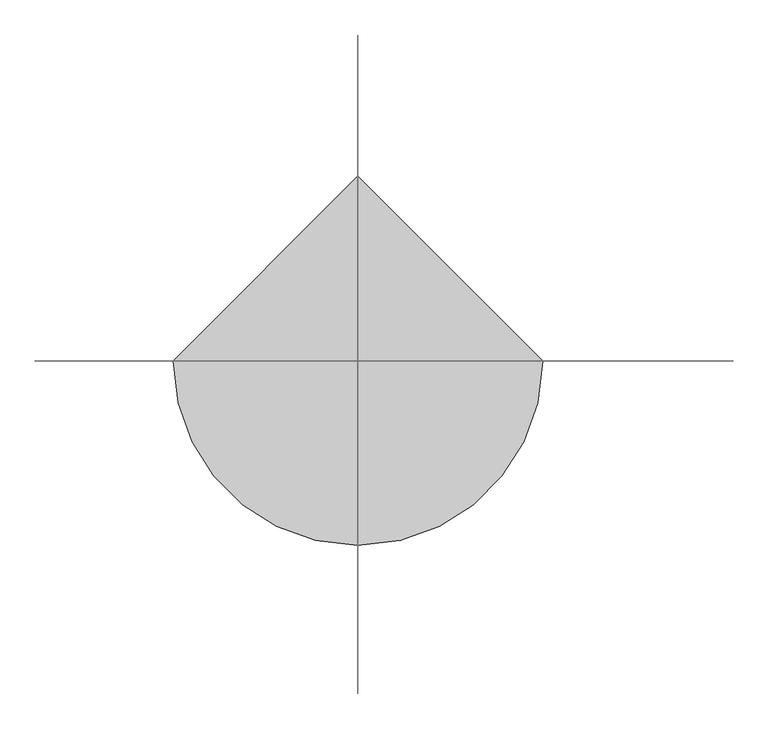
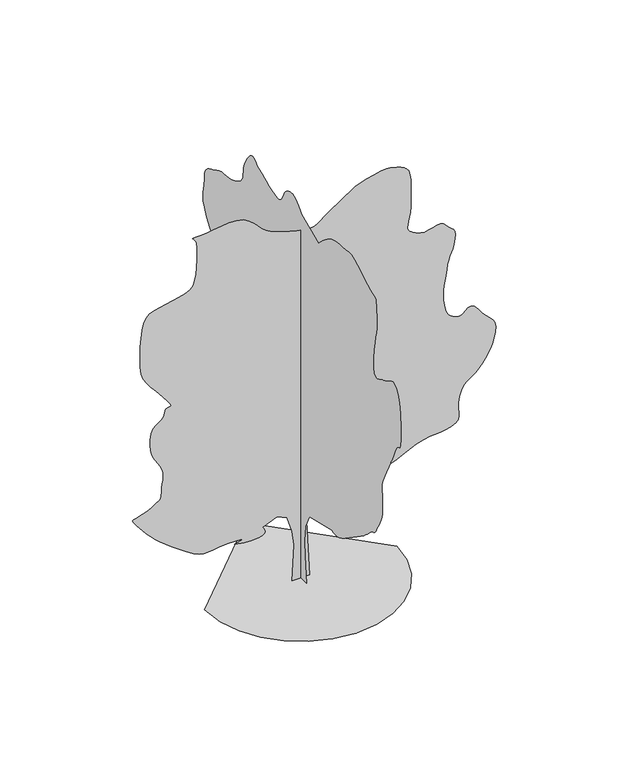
"""IFC4 building model written with IfcOpenShell, lengths in millimetres: geographic element geometry, Vegetacion PAEMFE : FRESNO AMERICANO."""

import ifcopenshell
import ifcopenshell.guid

model = None  # the IFC model being written
_history = None  # IfcOwnerHistory: only IFC2X3 demands one
_inside = {}  # id of a spatial element -> (the spatial element, [elements in it])
_under = {}  # id of a project, library or spatial element -> (it, [spatial elements below it])
_declared = {}  # id of a project -> (the project, [libraries it declares])
_typed = {}  # id of a type object -> (the type object, [elements of that type])
_made_of = {}  # id of a material, layer set ... -> (it, [elements and type objects made of it])


def new_model(schema):
    """Start an empty IFC model of exactly this schema.

    Asked for "IFC4X3", IfcOpenShell would pick the latest addendum, in which some entities
    have other attributes; the version numbers below select the first issue.
    IFC2X3 requires an IfcOwnerHistory on every rooted entity: one is made here for all.
    """
    global model, _history
    if schema == "IFC4X3":
        model = ifcopenshell.file(schema_version=(4, 3, 0, 0))
    else:
        model = ifcopenshell.file(schema=schema)
    _inside.clear()
    _under.clear()
    _declared.clear()
    _typed.clear()
    _made_of.clear()
    _history = None
    if model.schema == "IFC2X3":
        org = make("IfcOrganization", Name="unknown")
        user = make(
            "IfcPersonAndOrganization",
            ThePerson=make("IfcPerson", FamilyName="unknown"),
            TheOrganization=org,
        )
        app = make(
            "IfcApplication",
            ApplicationDeveloper=org,
            Version="unknown",
            ApplicationFullName="unknown",
            ApplicationIdentifier="unknown",
        )
        _history = make(
            "IfcOwnerHistory",
            OwningUser=user,
            OwningApplication=app,
            ChangeAction="ADDED",
            CreationDate=0,
        )
    return model


def make(cls, **values):
    """One entity of the class cls with the attributes given. An attribute that is None is left unset."""
    return model.create_entity(
        cls, **{name: value for name, value in values.items() if value is not None}
    )


def rooted(cls, **values):
    """An entity with a GlobalId (a new one), such as an element, a storey or a relation."""
    return make(cls, GlobalId=ifcopenshell.guid.new(), OwnerHistory=_history, **values)


def si_unit(unit_type, name, prefix=None):
    """IfcSIUnit, for example si_unit("LENGTHUNIT", "METRE", prefix="MILLI")."""
    return make("IfcSIUnit", UnitType=unit_type, Prefix=prefix, Name=name)


def assignment(units):
    """IfcUnitAssignment: the units of a project."""
    return None if units is None else make("IfcUnitAssignment", Units=units)


def point(xyz):
    """IfcCartesianPoint."""
    return None if xyz is None else make("IfcCartesianPoint", Coordinates=xyz)


def direction(xyz):
    """IfcDirection."""
    return None if xyz is None else make("IfcDirection", DirectionRatios=xyz)


def frame(location, z_axis=None, x_axis=None):
    """IfcAxis2Placement3D, a coordinate frame: its origin and axes. An axis left out is left unset."""
    return make(
        "IfcAxis2Placement3D",
        Location=point(location),
        Axis=direction(z_axis),
        RefDirection=direction(x_axis),
    )


def origin():
    """The frame at (0, 0, 0) with its axes left unset."""
    return frame((0.0, 0.0, 0.0))


def place(relative_to, where):
    """IfcLocalPlacement: puts the frame where relative to a parent placement (None: the world)."""
    return make(
        "IfcLocalPlacement", PlacementRelTo=relative_to, RelativePlacement=where
    )


def context(
    kind, dimensions, precision=None, world=None, true_north=None, identifier=None
):
    """IfcGeometricRepresentationContext, for example the 3D "Model" context."""
    return make(
        "IfcGeometricRepresentationContext",
        ContextIdentifier=identifier,
        ContextType=kind,
        CoordinateSpaceDimension=dimensions,
        Precision=precision,
        WorldCoordinateSystem=world,
        TrueNorth=true_north,
    )


def project(units=None, contexts=None):
    """IfcProject with its units and contexts."""
    return rooted(
        "IfcProject",
        Name="project",
        RepresentationContexts=contexts,
        UnitsInContext=assignment(units),
    )


def spatial(cls, under=None, at=None, **own):
    """A site, building, storey or space (cls), placed at a placement, below another one or the project."""
    s = rooted(cls, ObjectPlacement=at, **own)
    if under is not None:
        _under.setdefault(under.id(), (under, []))[1].append(s)
    return s


def point_list(points):
    """IfcCartesianPointList2D or 3D."""
    cls = (
        "IfcCartesianPointList2D" if len(points[0]) == 2 else "IfcCartesianPointList3D"
    )
    return make(cls, CoordList=points)


def triangles(points, corners, closed=None, point_numbers=None):
    """IfcTriangulatedFaceSet: each triangle names its three corners, points numbered from 1."""
    return make(
        "IfcTriangulatedFaceSet",
        Coordinates=point_list(points),
        Closed=closed,
        CoordIndex=corners,
        PnIndex=point_numbers,
    )


def shape(context_of_items, identifier, shape_type, items):
    """IfcShapeRepresentation: the items that make up one representation, for example the "Body"."""
    return make(
        "IfcShapeRepresentation",
        ContextOfItems=context_of_items,
        RepresentationIdentifier=identifier,
        RepresentationType=shape_type,
        Items=items,
    )


def source(mapping_origin, context_of_items, identifier, shape_type, items):
    """IfcRepresentationMap: a shape defined once, which mapped items show again and again."""
    return make(
        "IfcRepresentationMap",
        MappingOrigin=mapping_origin,
        MappedRepresentation=shape(context_of_items, identifier, shape_type, items),
    )


def transform(
    local_origin,
    x_axis=None,
    y_axis=None,
    z_axis=None,
    scale=None,
    scale2=None,
    scale3=None,
    uniform=True,
):
    """IfcCartesianTransformationOperator3D, or its non-uniform kind. x_axis, y_axis, z_axis: its Axis1, 2, 3."""
    if uniform:
        return make(
            "IfcCartesianTransformationOperator3D",
            Axis1=direction(x_axis),
            Axis2=direction(y_axis),
            LocalOrigin=point(local_origin),
            Scale=scale,
            Axis3=direction(z_axis),
        )
    return make(
        "IfcCartesianTransformationOperator3DnonUniform",
        Axis1=direction(x_axis),
        Axis2=direction(y_axis),
        LocalOrigin=point(local_origin),
        Scale=scale,
        Axis3=direction(z_axis),
        Scale2=scale2,
        Scale3=scale3,
    )


def mapped(mapping_source, mapping_target):
    """IfcMappedItem: shows the shape of a source again, moved by a transform."""
    return make(
        "IfcMappedItem", MappingSource=mapping_source, MappingTarget=mapping_target
    )


def made_of(thing, what):
    """Note that an element or type object is made of a material, layer set ...; save() writes the relation."""
    if what is not None:
        _made_of.setdefault(what.id(), (what, []))[1].append(thing)
    return thing


def element(
    cls,
    number,
    at=None,
    inside=None,
    cuts=None,
    type_object=None,
    material=None,
    context=None,
    identifier="Body",
    shape_type=None,
    held_by="IfcProductDefinitionShape",
    body=None,
    shapes=None,
    **own,
):
    """One element of the class cls, such as IfcWall. Its Tag is "e" and its number.

    at: its placement. inside: the storey or other place that contains it. cuts: it is an
    opening in that element (IfcRelVoidsElement). A single representation is given by context,
    identifier, shape_type and body (its items); several are given by shapes. held_by: the class
    of the entity that holds the representations. save() writes the other relations.
    """
    e = rooted(cls, Tag="e%d" % number, ObjectPlacement=at, **own)
    if body is not None:
        shapes = [shape(context, identifier, shape_type, body)]
    if shapes is not None:
        e.Representation = make(held_by, Representations=shapes)
    if inside is not None:
        _inside.setdefault(inside.id(), (inside, []))[1].append(e)
    if cuts is not None:
        rooted(
            "IfcRelVoidsElement", RelatingBuildingElement=cuts, RelatedOpeningElement=e
        )
    if type_object is not None:
        _typed.setdefault(type_object.id(), (type_object, []))[1].append(e)
    return made_of(e, material)


def aggregate(whole, parts):
    """IfcRelAggregates: a whole, such as a stair, and the parts it consists of."""
    return rooted("IfcRelAggregates", RelatingObject=whole, RelatedObjects=parts)


def save(model, path):
    """Write the relations noted so far, then the file.

    IfcRelAggregates (storeys below a building ...), IfcRelContainedInSpatialStructure (elements
    in a storey), IfcRelDefinesByType, IfcRelAssociatesMaterial and IfcRelDeclares: one each for
    every whole, place, type object, material and project.
    """
    for whole, parts in _under.values():
        aggregate(whole, parts)
    for where, things in _inside.values():
        rooted(
            "IfcRelContainedInSpatialStructure",
            RelatedElements=things,
            RelatingStructure=where,
        )
    for kind, things in _typed.values():
        rooted("IfcRelDefinesByType", RelatedObjects=things, RelatingType=kind)
    for what, things in _made_of.values():
        rooted("IfcRelAssociatesMaterial", RelatedObjects=things, RelatingMaterial=what)
    for by, libraries in _declared.values():
        rooted("IfcRelDeclares", RelatingContext=by, RelatedDefinitions=libraries)
    model.write(path)


def geographic_element_c9136397(model_context):
    return source(origin(), model_context, "Body", "Tessellation", [
        triangles([(0.0016222, 224.5022668, 0.0), (0.0016222, -245.8247844, 0.0), (0.0016222, -183.1143135, 689.8130545), (0.0016222, -167.437218, 1081.7508316), (0.0016222, -198.7914089, 1473.6886814), (0.0016222, -386.9223856, 1834.2723404), (0.0016222, -1343.2510036, 2069.4350212), (0.0016222, -1394.2635876, 2050.0558262), (0.0016222, -1448.9720215, 2035.3391373), (0.0016222, -1511.0887241, 2029.9432457), (0.0016222, -1584.3137604, 2038.5390873), (0.0016222, -1672.3429802, 2065.7808838), (0.0016222, -1778.8847328, 2116.3308506), (0.0016222, -1907.6431526, 2194.855854), (0.0016222, -2425.0019806, 2555.4396584), (0.0016222, -2498.1353073, 2606.8603569), (0.0016222, -2570.4436844, 2655.8105667), (0.0016222, -2643.0270447, 2705.5854355), (0.0016222, -2716.9812515, 2759.4772041), (0.0016222, -2793.4021683, 2820.7688118), (0.0016222, -2873.3897278, 2892.7565689), (0.0016222, -2958.0397934, 2978.7315536), (0.0016222, -3031.3983971, 3047.9316902), (0.0016222, -3082.2691292, 3079.2899506), (0.0016222, -3118.88172, 3090.6232704), (0.0016222, -3149.4609581, 3099.7648636), (0.0016222, -3182.2316322, 3124.5400955), (0.0016222, -3225.4234726, 3182.7690994), (0.0016222, -3287.2650467, 3292.2859612), (0.0016222, -3354.5943672, 3417.3361771), (0.0016222, -3409.307016, 3519.0820015), (0.0016222, -3452.2235825, 3610.6778641), (0.0016222, -3484.1736671, 3705.2947632), (0.0016222, -3505.9778595, 3816.0862564), (0.0016222, -3518.4526794, 3956.2239235), (0.0016222, -3522.4320877, 4138.8700424), (0.0016222, -3514.6610504, 4305.9200203), (0.0016222, -3498.6652245, 4409.9200676), (0.0016222, -3485.4070221, 4479.8785881), (0.0016222, -3485.8654243, 4544.9202576), (0.0016222, -3511.0028435, 4634.086908), (0.0016222, -3571.7944817, 4776.5037964), (0.0016222, -3679.2071114, 5001.129039), (0.0016222, -3787.2572021, 5219.7540665), (0.0016222, -3852.5282181, 5346.754454), (0.0016222, -3889.8239067, 5415.379335), (0.0016222, -3913.9573174, 5458.7545944), (0.0016222, -3939.7365578, 5510.0875076), (0.0016222, -3981.9697357, 5602.5463989), (0.0016222, -4055.465831, 5769.3379623), (0.0016222, -4138.4700668, 5921.3379868), (0.0016222, -4201.1700188, 5979.5879196), (0.0016222, -4246.3367386, 5992.2964462), (0.0016222, -4276.6700615, 6007.754805), (0.0016222, -4294.9616776, 6074.2129578), (0.0016222, -4303.9201424, 6239.9214478), (0.0016222, -4306.2949974, 6553.2133713), (0.0016222, -4290.2951019, 6907.3388489), (0.0016222, -4247.4201027, 7171.0058945), (0.0016222, -4185.3782501, 7355.380687), (0.0016222, -4111.7783821, 7471.7561417), (0.0016222, -4034.3490967, 7531.3391327), (0.0016222, -3960.7614372, 7545.4225754), (0.0016222, -3898.6905167, 7525.2145065), (0.0016222, -3844.8946724, 7491.7142258), (0.0016222, -3790.8238449, 7458.7557724), (0.0016222, -3736.203051, 7426.9228317), (0.0016222, -3680.761377, 7396.6723526), (0.0016222, -3624.2194794, 7368.6723175), (0.0016222, -3566.3110954, 7343.380838), (0.0016222, -3506.7528122, 7321.4222946), (0.0016222, -3439.015377, 7289.4643616), (0.0016222, -3362.2276222, 7248.1726959), (0.0016222, -3284.6152084, 7218.9640137), (0.0016222, -3214.4107727, 7223.2143356), (0.0016222, -3159.8359062, 7282.3392151), (0.0016222, -3129.1191765, 7417.6728149), (0.0016222, -3130.490023, 7650.6312698), (0.0016222, -3155.5858749, 7905.8813873), (0.0016222, -3187.2609764, 8104.8814499), (0.0016222, -3220.581617, 8264.3815979), (0.0016222, -3250.6108887, 8401.1319717), (0.0016222, -3272.415081, 8531.8815491), (0.0016222, -3281.0526352, 8673.2984985), (0.0016222, -3271.5901314, 8842.1317978), (0.0016222, -3258.4734901, 9004.1323746), (0.0016222, -3253.0316711, 9120.5903824), (0.0016222, -3245.6733994, 9201.6738052), (0.0016222, -3226.7983887, 9257.5076065), (0.0016222, -3186.8025742, 9298.2993027), (0.0016222, -3116.0940994, 9334.1325806), (0.0016222, -3005.0732597, 9375.1742615), (0.0016222, -2868.1772552, 9435.6327805), (0.0016222, -2727.7230377, 9515.2994293), (0.0016222, -2585.8895439, 9602.6743286), (0.0016222, -2444.88536, 9686.1744644), (0.0016222, -2306.897707, 9754.2999573), (0.0016222, -2174.118457, 9795.5916229), (0.0016222, -2048.743261, 9798.4658661), (0.0016222, -1926.2473949, 9782.3831268), (0.0016222, -1802.1055538, 9771.5082092), (0.0016222, -1678.5138245, 9761.423941), (0.0016222, -1557.6637882, 9747.7991913), (0.0016222, -1441.751096, 9726.2580643), (0.0016222, -1332.967765, 9692.3409485), (0.0016222, -1233.509301, 9641.6742737), (0.0016222, -1144.9301147, 9582.1325592), (0.0016222, -1066.2216923, 9524.2157455), (0.0016222, -995.7424913, 9467.6744293), (0.0016222, -931.8423946, 9412.2574631), (0.0016222, -872.8798599, 9357.632309), (0.0016222, -817.2089848, 9303.5489822), (0.0016222, -763.1839394, 9249.7574982), (0.0016222, -26.3389378, 9563.2994064), (0.0016222, 37.4681141, 9633.2579269), (0.0016222, 101.1379945, 9699.8410721), (0.0016222, 164.5338887, 9759.5077789), (0.0016222, 227.5181075, 9808.92453), (0.0016222, 289.9539767, 9844.6328156), (0.0016222, 351.7044408, 9863.174707), (0.0016222, 412.6320082, 9861.1748291), (0.0016222, 471.1378847, 9846.5082825), (0.0016222, 525.5295865, 9828.2582336), (0.0016222, 575.5338017, 9804.7992004), (0.0016222, 620.8754745, 9774.5080261), (0.0016222, 661.2796944, 9735.7162079), (0.0016222, 696.471369, 9686.7575684), (0.0016222, 726.1839449, 9626.0077881), (0.0016222, 754.5214594, 9558.6328308), (0.0016222, 787.7964632, 9494.0077057), (0.0016222, 829.0256327, 9436.7989883), (0.0016222, 881.2215746, 9391.6325592), (0.0016222, 947.4048895, 9363.1744125), (0.0016222, 1030.5924717, 9356.1742584), (0.0016222, 1133.8009249, 9375.1742615), (0.0016222, 1246.1926838, 9411.0493973), (0.0016222, 1355.2969254, 9451.0492813), (0.0016222, 1461.6554043, 9494.4658173), (0.0016222, 1565.8221565, 9540.6327667), (0.0016222, 1668.3429337, 9588.8408707), (0.0016222, 1769.7681381, 9638.424472), (0.0016222, 1870.6432308, 9688.7161697), (0.0016222, 1917.7682613, 9731.5496017), (0.0016222, 1965.4390434, 9769.2990417), (0.0016222, 2014.2099037, 9796.9240997), (0.0016222, 2064.6225243, 9809.3000885), (0.0016222, 2117.2350105, 9801.3831299), (0.0016222, 2172.5851204, 9768.1328339), (0.0016222, 2231.2267445, 9704.3826553), (0.0016222, 2288.680941, 9626.3409073), (0.0016222, 2339.5518185, 9552.0907883), (0.0016222, 2383.018642, 9479.7992706), (0.0016222, 2418.2602409, 9407.4658951), (0.0016222, 2444.4519562, 9333.257634), (0.0016222, 2460.7686928, 9255.174028), (0.0016222, 2466.3895706, 9171.340773), (0.0016222, 2472.46856, 9086.8406982), (0.0016222, 2491.985392, 9007.8402878), (0.0016222, 2526.8602982, 8934.0070038), (0.0016222, 2579.0146729, 8865.1321381), (0.0016222, 2650.360318, 8800.923848), (0.0016222, 2742.8270576, 8741.0902908), (0.0016222, 2858.3272751, 8685.3402054), (0.0016222, 2981.5107445, 8643.6735626), (0.0016222, 3097.0106712, 8620.6319458), (0.0016222, 3206.7525192, 8608.007135), (0.0016222, 3312.6568108, 8597.590329), (0.0016222, 3416.6402893, 8581.1320313), (0.0016222, 3520.6237679, 8550.4234406), (0.0016222, 3626.5277687, 8497.2150604), (0.0016222, 3734.1697449, 8440.5481705), (0.0016222, 3838.7906845, 8397.0485001), (0.0016222, 3935.461528, 8354.8818878), (0.0016222, 4019.2447861, 8302.3397461), (0.0016222, 4085.1991905, 8227.548381), (0.0016222, 4128.3907402, 8118.7567657), (0.0016222, 4143.8865967, 7964.1731781), (0.0016222, 4154.3074722, 7805.1311417), (0.0016222, 4177.3365898, 7680.3393402), (0.0016222, 4200.6700493, 7574.2144226), (0.0016222, 4211.919944, 7471.0893219), (0.0016222, 4198.7533058, 7355.380687), (0.0016222, 4148.824086, 7211.3807556), (0.0016222, 4049.8199547, 7023.5474533), (0.0016222, 3927.3280128, 6835.0054733), (0.0016222, 3816.6240143, 6690.0468796), (0.0016222, 3719.9072433, 6574.7550797), (0.0016222, 3639.3697174, 6475.0466309), (0.0016222, 3577.2113022, 6377.0049408), (0.0016222, 3535.6152946, 6266.6302826), (0.0016222, 3516.7862114, 6129.9217667), (0.0016222, 3525.973732, 5981.0046936), (0.0016222, 3561.4860992, 5842.7962692), (0.0016222, 3615.1028847, 5714.4209656), (0.0016222, 3678.5905792, 5595.1294098), (0.0016222, 3743.7197433, 5484.0879318), (0.0016222, 3802.2740181, 5380.4210037), (0.0016222, 3846.0155342, 5283.3373947), (0.0016222, 3888.3821342, 5217.6710541), (0.0016222, 3941.17397, 5191.7540314), (0.0016222, 3993.6908226, 5180.0873016), (0.0016222, 4035.240612, 5157.1706772), (0.0016222, 4055.1239914, 5097.5458282), (0.0016222, 4042.6448112, 4975.6288513), (0.0016222, 3987.111573, 4765.9622887), (0.0016222, 3910.5990921, 4529.7537415), (0.0016222, 3839.5697067, 4337.1285805), (0.0016222, 3769.9114586, 4176.0866661), (0.0016222, 3697.5112267, 4034.4740891), (0.0016222, 3618.2570526, 3900.2782104), (0.0016222, 3528.0279671, 3761.4195351), (0.0016222, 3422.7192787, 3605.8362991), (0.0016222, 3317.0902611, 3449.0153481), (0.0016222, 3228.4651474, 3313.0358574), (0.0016222, 3156.5692451, 3195.7066818), (0.0016222, 3101.1232109, 3094.8273743), (0.0016222, 3061.8607819, 3008.2149284), (0.0016222, 3038.5066841, 2933.6648277), (0.0016222, 3030.7815742, 2868.9897057), (0.0016222, 3037.3648933, 2824.6063683), (0.0016222, 3052.7232582, 2803.8105446), (0.0016222, 3070.2733498, 2793.7105797), (0.0016222, 3083.4359184, 2781.4148186), (0.0016222, 3085.6317146, 2754.0356758), (0.0016222, 3070.2733498, 2698.6855659), (0.0016222, 3030.7815742, 2602.472834), (0.0016222, 2997.9190453, 2500.9560654), (0.0016222, 2994.3983299, 2431.526873), (0.0016222, 3001.5731827, 2384.0393646), (0.0016222, 3000.79823, 2348.3393635), (0.0016222, 2973.4190872, 2314.289407), (0.0016222, 2900.7897995, 2271.735173), (0.0016222, 2764.2647026, 2210.5351295), (0.0016222, 2615.4854118, 2148.0059521), (0.0016222, 2507.0228462, 2103.8516705), (0.0016222, 2421.5978279, 2071.4933258), (0.0016222, 2341.9310337, 2044.3432388), (0.0016222, 2250.7434311, 2015.8224506), (0.0016222, 2130.7642719, 1979.3473515), (0.0016222, 1964.7098728, 1928.3389824), (0.0016222, 1798.0139431, 1879.4306305), (0.0016222, 1677.3929626, 1849.9931831), (0.0016222, 1587.4887119, 1834.5473236), (0.0016222, 1512.9387566, 1827.5973118), (0.0016222, 1438.3928707, 1823.6681911), (0.0016222, 1348.4844051, 1817.2681458), (0.0016222, 1227.8634247, 1802.9181496), (0.0016222, 1086.7675312, 1780.0180939), (0.0016222, 945.6674229, 1752.1805489), (0.0016222, 804.5714567, 1720.234679), (0.0016222, 663.4713484, 1684.9930801), (0.0016222, 522.3754186, 1647.284626), (0.0016222, 381.2773813, 1607.9304874), (0.0016222, 240.1793622, 1567.7554688), (223.3993363, 0.0005174, 0.0230774), (-215.5709988, 0.0005174, 0.0230774), (-168.5384771, 0.0004625, 924.9965916), (-215.5709988, 0.0004416, 1301.2593807), (-340.9915409, 0.0004181, 1693.1972305), (-591.8338243, 0.0004102, 1818.6180634), (-952.4174469, 0.0004181, 1661.8430397), (-923.0715637, 0.0004207, 1621.6638062), (-899.0757174, 0.0004233, 1582.3137371), (-885.7757298, 0.0004259, 1544.6054283), (-888.5173502, 0.0004285, 1509.3636841), (-912.6507608, 0.0004311, 1477.4137447), (-963.5216383, 0.0004311, 1449.5802692), (-1046.4800194, 0.0004337, 1426.6803589), (-1144.0633799, 0.0004337, 1411.5511951), (-1235.8925858, 0.0004337, 1405.4719151), (-1322.9177971, 0.0004337, 1406.9344711), (-1406.1053066, 0.0004337, 1414.4302345), (-1486.4136314, 0.0004337, 1426.4511578), (-1564.8012886, 0.0004311, 1441.488612), (-1642.2263592, 0.0004311, 1458.0345497), (-1563.7929199, 0.0004311, 1478.0094933), (-1498.5262642, 0.0004285, 1496.8845039), (-1459.5803856, 0.0004285, 1513.5679333), (-1460.130352, 0.0004259, 1526.9595577), (-1513.3345173, 0.0004259, 1535.9636593), (-1632.3554501, 0.0004259, 1539.48452), (-1830.3555737, 0.0004259, 1536.4220615), (-2038.9640614, 0.0004285, 1522.0262833), (-2193.8226322, 0.0004285, 1499.9469624), (-2314.122702, 0.0004285, 1481.7095581), (-2419.064407, 0.0004285, 1478.8303734), (-2527.8477379, 0.0004285, 1502.8261471), (-2659.6687614, 0.0004259, 1565.2179783), (-2833.7188934, 0.0004181, 1677.517955), (-3026.6940331, 0.0004102, 1814.0472668), (-3202.6693382, 0.0004024, 1942.3474297), (-3361.9110718, 0.0003946, 2063.7891449), (-3504.6985771, 0.0003893, 2179.7516888), (-3631.3111977, 0.0003815, 2291.5935539), (-3742.0114174, 0.0003736, 2400.6977955), (-3837.0823586, 0.0003684, 2508.4311905), (-3923.5613823, 0.0003632, 2612.6396553), (-4004.8282242, 0.0003554, 2708.6271103), (-4075.6741905, 0.0003501, 2793.914637), (-4130.8865181, 0.0003475, 2866.0398857), (-4165.2573853, 0.0003449, 2922.5355652), (-4173.586528, 0.0003423, 2960.9314774), (-4150.6324059, 0.0003397, 2978.7565521), (-4098.986721, 0.0003397, 2990.0439445), (-4029.236618, 0.0003397, 3009.5607765), (-3948.2406898, 0.0003371, 3035.9356201), (-3862.8613083, 0.0003345, 3067.7941406), (-3779.9489273, 0.0003318, 3103.7649101), (-3706.3612679, 0.0003318, 3142.4773727), (-3648.9528534, 0.0003292, 3182.5650421), (-3603.9779823, 0.0003266, 3213.0024284), (-3563.6612572, 0.0003266, 3230.2816063), (-3528.8319878, 0.000324, 3244.2691246), (-3500.3110542, 0.000324, 3264.8358925), (-3478.9236969, 0.0003214, 3301.8609581), (-3465.486145, 0.0003162, 3365.211161), (-3460.8236389, 0.0003109, 3464.7611893), (-3454.331884, 0.0003057, 3577.8403336), (-3439.6153404, 0.0002979, 3678.3028061), (-3423.7985733, 0.0002926, 3770.8154732), (-3414.019519, 0.0002874, 3860.0364807), (-3417.4027428, 0.0002822, 3950.6280441), (-3441.0777512, 0.000277, 4047.2491814), (-3492.1778297, 0.0002691, 4154.5699562), (-3557.0820076, 0.0002639, 4259.7117943), (-3615.9528328, 0.0002587, 4352.5035141), (-3666.5945091, 0.0002535, 4441.7120224), (-3706.8196701, 0.0002482, 4536.128643), (-3734.4237991, 0.0002404, 4644.5452812), (-3747.2238899, 0.0002326, 4775.7122749), (-3743.0197861, 0.0002247, 4938.4625153), (-3714.815403, 0.0002143, 5089.8788544), (-3663.3028496, 0.000209, 5191.9208817), (-3597.8071381, 0.0002038, 5260.5457626), (-3527.6445602, 0.0002012, 5311.5874146), (-3462.148558, 0.0001986, 5361.0041656), (-3410.6360046, 0.0001934, 5424.6712097), (-3382.4359818, 0.0001881, 5518.5044357), (-3352.952607, 0.0001855, 5598.7960464), (-3304.0026878, 0.0001829, 5628.8378174), (-3254.4984421, 0.0001829, 5635.338002), (-3223.373307, 0.0001803, 5644.8380035), (-3229.5441513, 0.0001803, 5683.962941), (-3291.9359825, 0.0001725, 5779.3379333), (-3429.4653786, 0.000162, 5957.5049652), (-3594.8360985, 0.0001516, 6157.671817), (-3729.2153961, 0.0001411, 6315.0883713), (-3834.2488106, 0.0001333, 6450.2969788), (-3911.5865318, 0.0001254, 6583.8388275), (-3962.8697388, 0.0001176, 6736.3388214), (-3989.7448425, 0.0001045, 6928.2974533), (-3993.8573822, 8.88e-05, 7180.3390457), (-3985.4488838, 7.32e-05, 7450.1307175), (-3970.7323402, 6.01e-05, 7682.0892334), (-3945.3155777, 4.96e-05, 7876.7564209), (-3904.8197937, 3.92e-05, 8034.6729446), (-3844.8531052, 3.14e-05, 8156.4230713), (-3761.0239197, 2.61e-05, 8242.4649124), (-3648.9528534, 2.35e-05, 8293.4234299), (-3507.8986725, 2.09e-05, 8324.798259), (-3347.9235535, 2.09e-05, 8354.2150681), (-3180.8192184, 1.83e-05, 8385.5898972), (-3018.3773895, 1.57e-05, 8422.7149567), (-2872.3897888, 1.31e-05, 8469.4231522), (-2754.6481384, 1.05e-05, 8529.5485519), (-2676.9438698, 5.2e-06, 8607.0066147), (-2631.4187416, -2.6e-06, 8721.1734833), (-2600.7063721, -1.05e-05, 8877.2988373), (-2582.3313309, -2.09e-05, 9057.8407242), (-2573.8312683, -3.4e-05, 9245.2571915), (-2572.7313354, -4.44e-05, 9421.9655914), (-2576.5729614, -5.23e-05, 9570.4245529), (-2582.8812973, -5.75e-05, 9673.0496841), (-2601.5728889, -6.27e-05, 9737.7992203), (-2634.5313423, -6.53e-05, 9785.7991974), (-2667.2104523, -6.79e-05, 9819.507605), (-2685.0814545, -6.79e-05, 9841.4667297), (-2673.6103523, -7.05e-05, 9854.0496826), (-2618.2561729, -7.05e-05, 9859.8411896), (-2504.4936401, -7.05e-05, 9861.216687), (-2343.785281, -7.05e-05, 9871.7579041), (-2163.3351036, -7.32e-05, 9895.7576019), (-1972.1848526, -7.32e-05, 9921.6746246), (-1779.393132, -7.32e-05, 9937.9666534), (-1594.0054653, -7.32e-05, 9933.1750854), (-1425.0720268, -7.32e-05, 9895.7576019), (-1281.6427002, -6.79e-05, 9814.1742096), (-1172.7259472, -6.01e-05, 9715.5912735), (-1091.7758738, -5.49e-05, 9632.0492798), (-1024.5424776, -5.23e-05, 9559.5077774), (-956.759115, -4.7e-05, 9493.8408554), (-874.167354, -4.44e-05, 9430.9243469), (-762.5047657, -3.92e-05, 9366.5910645), (-607.5088122, -3.66e-05, 9296.7993942), (-427.9253334, -3.14e-05, 9231.2574646), (-255.4735414, -2.87e-05, 9181.340744), (-95.3613304, -2.61e-05, 9145.4237503), (47.1992039, -2.61e-05, 9121.8408875), (166.9980552, -2.61e-05, 9108.9655106), (258.8235367, -2.35e-05, 9105.0907471), (317.4656877, -2.61e-05, 9108.6736679), (359.6990473, -2.61e-05, 9121.7571716), (405.7715621, -2.61e-05, 9146.0487122), (455.6837045, -2.87e-05, 9179.4240005), (509.4337303, -3.14e-05, 9219.6325928), (567.0254548, -3.4e-05, 9264.5490372), (628.4546631, -3.66e-05, 9311.8821945), (693.7255337, -3.92e-05, 9359.5077759), (1320.8302792, -6.53e-05, 9782.7993805), (1362.1469433, -6.53e-05, 9798.2158813), (1470.9302742, -6.79e-05, 9836.9239838), (1624.4137836, -7.05e-05, 9887.7162323), (1799.8389771, -7.58e-05, 9939.2991302), (1974.4390755, -7.58e-05, 9980.5082428), (2125.455875, -7.84e-05, 10000.0082153), (2230.1268116, -7.84e-05, 9986.6334503), (2308.8768013, -7.58e-05, 9958.424707), (2393.6643585, -7.32e-05, 9935.7167908), (2479.0018822, -7.32e-05, 9910.5078644), (2559.397847, -7.05e-05, 9874.9239899), (2629.3770058, -6.79e-05, 9820.9249603), (2683.4481239, -6.27e-05, 9740.6327682), (2716.1313034, -5.49e-05, 9626.049646), (2731.8062187, -4.7e-05, 9497.6743423), (2739.8063118, -4.18e-05, 9378.6740479), (2742.0439659, -3.4e-05, 9264.8408798), (2740.4437729, -2.87e-05, 9152.1320618), (2736.9230576, -2.09e-05, 9036.4240082), (2733.4064117, -1.31e-05, 8913.5489502), (2731.8062187, -5.2e-06, 8779.465274), (2723.4855057, 2.6e-06, 8645.9652832), (2703.6521233, 1.05e-05, 8527.5899506), (2679.9730453, 1.57e-05, 8424.0067383), (2660.1355934, 2.09e-05, 8335.0069382), (2651.8186592, 2.61e-05, 8260.2149918), (2662.697937, 2.87e-05, 8199.4233536), (2700.4520279, 3.14e-05, 8152.3395996), (2753.2897911, 3.4e-05, 8114.8814209), (2804.4814339, 3.66e-05, 8082.8816299), (2854.3022301, 3.66e-05, 8056.0896606), (2903.0230934, 3.92e-05, 8034.256691), (2950.9274368, 3.92e-05, 8017.0478577), (2998.2774536, 4.18e-05, 8004.2561966), (3045.3565567, 4.18e-05, 7995.5480072), (3105.4151001, 4.18e-05, 8000.5064255), (3186.0441902, 3.92e-05, 8021.6312988), (3279.0108994, 3.92e-05, 8048.2145599), (3376.0945084, 3.66e-05, 8069.6312759), (3469.0612175, 3.66e-05, 8075.0896637), (3549.6903076, 3.92e-05, 8053.9647903), (3609.748851, 4.18e-05, 7995.5480072), (3658.9321861, 4.44e-05, 7930.1310699), (3709.4820076, 4.7e-05, 7886.5895416), (3757.0154434, 4.96e-05, 7852.4230225), (3797.1487495, 5.23e-05, 7814.9229858), (3825.486264, 5.49e-05, 7761.5477554), (3837.6448242, 6.01e-05, 7679.6312439), (3829.2363258, 6.79e-05, 7556.5893356), (3805.6031754, 7.58e-05, 7426.0891617), (3776.4904175, 8.1e-05, 7322.7559341), (3744.0822212, 8.62e-05, 7235.3391769), (3710.5778709, 9.15e-05, 7152.5471375), (3678.1737442, 9.67e-05, 7063.1723602), (3649.0572075, 0.0001045, 6956.0056458), (3625.4278358, 0.0001124, 6819.7552414), (3603.85299, 0.0001202, 6673.963559), (3581.4569733, 0.000128, 6542.1303268), (3561.2529739, 0.0001359, 6419.0884186), (3546.2611565, 0.0001437, 6299.5881546), (3539.4987785, 0.0001489, 6178.4629898), (3543.9778656, 0.0001568, 6050.5051025), (3562.7153847, 0.0001646, 5910.4630692), (3592.4737427, 0.0001725, 5782.5046005), (3627.9861099, 0.0001777, 5689.4213287), (3669.2571373, 0.0001829, 5623.7544067), (3716.2906036, 0.0001855, 5578.0880081), (3769.0821487, 0.0001881, 5545.0458389), (3827.6364235, 0.0001881, 5517.1707962), (3891.9447075, 0.0001907, 5487.1708832), (3957.6241287, 0.0001907, 5483.0879929), (4021.9364822, 0.0001881, 5521.7960953), (4087.3406296, 0.0001855, 5578.8792389), (4156.3157799, 0.0001829, 5629.9627487), (4231.3367821, 0.0001803, 5650.546376), (4314.8369179, 0.0001829, 5616.337999), (4409.2951057, 0.0001907, 5502.8379501), (4510.920298, 0.0001986, 5364.1295563), (4609.7953674, 0.0002038, 5260.7544708), (4699.2954277, 0.000209, 5178.254274), (4772.9621521, 0.0002143, 5102.0874115), (4824.0872292, 0.0002195, 5017.6704712), (4846.1704742, 0.0002247, 4910.4624802), (4832.5872917, 0.0002352, 4766.0038559), (4796.8371483, 0.000243, 4610.5868889), (4755.9204597, 0.0002508, 4476.8369133), (4708.3788849, 0.0002587, 4359.5868027), (4652.8787842, 0.0002639, 4253.5450195), (4588.0452415, 0.0002691, 4153.5200203), (4512.5451988, 0.000277, 4054.3365395), (4424.961882, 0.0002822, 3950.7614662), (4334.7118675, 0.0002874, 3861.9072968), (4251.8366936, 0.0002926, 3800.4779068), (4176.0866661, 0.0002953, 3751.6614098), (4107.2240089, 0.0002979, 3700.6528954), (4044.9240326, 0.0003005, 3632.640477), (3988.9323921, 0.0003083, 3532.8195351), (3938.9781738, 0.0003162, 3386.3735321), (3912.0574333, 0.0003266, 3224.6610191), (3913.6573357, 0.0003345, 3087.0816261), (3926.2240105, 0.0003397, 2970.8939507), (3932.2114357, 0.0003475, 2873.3565903), (3914.065741, 0.0003527, 2791.723201), (3854.236544, 0.0003554, 2723.2520897), (3735.1696838, 0.000358, 2665.2062141), (3592.1069046, 0.0003606, 2626.5812462), (3464.1277977, 0.0003632, 2609.622979), (3339.4359901, 0.0003632, 2601.4438271), (3206.24412, 0.0003632, 2589.1477753), (3052.7607559, 0.0003658, 2559.8521797), (2867.1898155, 0.0003684, 2500.6604439), (2637.7395767, 0.0003763, 2398.685273), (2387.9061344, 0.0003815, 2281.4018795), (2151.7850819, 0.0003867, 2184.1392117), (1933.4848892, 0.0003919, 2105.7974819), (1737.1305954, 0.0003972, 2045.280827), (1566.8263103, 0.0003998, 2001.4932381), (1426.6886433, 0.0003998, 1973.3349277), (1320.8302792, 0.0004024, 1959.7141022), (662.3713428, 0.0004024, 1944.0390415), (176.3668147, 0.0004076, 1865.6515297), (145.0126148, 0.0004311, 1442.3552742), (-2384.7727501, 0.0, 0.0197329), (-2321.726889, -546.4337611, 0.0197329), (-2142.1766567, -1048.2424845, 0.0197329), (-1860.4931236, -1491.0553539, 0.0197329), (-1491.0553539, -1860.4931236, 0.0197329), (-1048.2424845, -2142.1766567, 0.0197329), (-546.4337611, -2321.726889, 0.0197329), (0.0001042, -2384.7727501, 0.0197329), (546.4337611, -2321.726889, 0.0197329), (1048.2424845, -2142.1766567, 0.0197329), (1491.0553539, -1860.4931236, 0.0197329), (1860.4931236, -1491.0553539, 0.0197329), (2142.1766567, -1048.2424845, 0.0197329), (2321.726889, -546.4337611, 0.0197329), (2384.7727501, 0.000209, 0.0197329), (-0.0003127, 2384.7727501, 0.0197329)], [[1, 2, 3], [254, 1, 3], [254, 3, 4], [254, 4, 5], [254, 5, 6], [53, 54, 55], [52, 53, 55], [201, 202, 203], [201, 203, 204], [200, 201, 204], [222, 223, 224], [52, 55, 56], [200, 204, 205], [199, 200, 205], [253, 254, 6], [221, 222, 224], [221, 224, 225], [229, 230, 231], [229, 231, 232], [228, 229, 232], [228, 232, 233], [227, 228, 233], [252, 253, 6], [221, 225, 226], [220, 221, 226], [199, 205, 206], [198, 199, 206], [62, 63, 64], [61, 62, 64], [61, 64, 65], [60, 61, 65], [60, 65, 66], [59, 60, 66], [59, 66, 67], [59, 67, 68], [58, 59, 68], [58, 68, 69], [58, 69, 70], [57, 58, 70], [57, 70, 71], [57, 71, 72], [57, 72, 73], [57, 73, 74], [56, 57, 74], [52, 56, 74], [51, 52, 74], [50, 51, 74], [50, 74, 75], [49, 50, 75], [48, 49, 75], [47, 48, 75], [46, 47, 75], [45, 46, 75], [44, 45, 75], [43, 44, 75], [42, 43, 75], [42, 75, 76], [41, 42, 76], [227, 233, 234], [226, 227, 234], [220, 226, 234], [219, 220, 234], [219, 234, 235], [219, 235, 236], [219, 236, 237], [218, 219, 237], [218, 237, 238], [218, 238, 239], [218, 239, 240], [217, 218, 240], [217, 240, 241], [217, 241, 242], [217, 242, 243], [217, 243, 244], [217, 244, 245], [217, 245, 246], [216, 217, 246], [216, 246, 247], [215, 216, 247], [215, 247, 248], [251, 252, 6], [88, 89, 90], [88, 90, 91], [87, 88, 91], [87, 91, 92], [86, 87, 92], [86, 92, 93], [85, 86, 93], [84, 85, 93], [84, 93, 94], [83, 84, 94], [82, 83, 94], [81, 82, 94], [81, 94, 95], [80, 81, 95], [80, 95, 96], [80, 96, 97], [80, 97, 98], [80, 98, 99], [80, 99, 100], [80, 100, 101], [80, 101, 102], [80, 102, 103], [80, 103, 104], [80, 104, 105], [80, 105, 106], [80, 106, 107], [80, 107, 108], [80, 108, 109], [80, 109, 110], [80, 110, 111], [80, 111, 112], [79, 80, 112], [79, 112, 113], [78, 79, 113], [77, 78, 113], [76, 77, 113], [41, 76, 113], [40, 41, 113], [40, 113, 114], [39, 40, 114], [198, 206, 207], [197, 198, 207], [196, 197, 207], [196, 207, 208], [195, 196, 208], [195, 208, 209], [195, 209, 210], [195, 210, 211], [194, 195, 211], [194, 211, 212], [194, 212, 213], [193, 194, 213], [193, 213, 214], [214, 215, 248], [193, 214, 248], [193, 248, 249], [192, 193, 249], [192, 249, 250], [192, 250, 251], [192, 251, 6], [192, 6, 7], [191, 192, 7], [190, 191, 7], [189, 190, 7], [38, 39, 114], [37, 38, 114], [36, 37, 114], [35, 36, 114], [34, 35, 114], [33, 34, 114], [32, 33, 114], [31, 32, 114], [30, 31, 114], [29, 30, 114], [28, 29, 114], [27, 28, 114], [26, 27, 114], [25, 26, 114], [24, 25, 114], [23, 24, 114], [22, 23, 114], [21, 22, 114], [20, 21, 114], [19, 20, 114], [18, 19, 114], [17, 18, 114], [16, 17, 114], [15, 16, 114], [14, 15, 114], [13, 14, 114], [12, 13, 114], [11, 12, 114], [10, 11, 114], [9, 10, 114], [8, 9, 114], [7, 8, 114], [189, 7, 114], [188, 189, 114], [188, 114, 115], [188, 115, 116], [188, 116, 117], [188, 117, 118], [188, 118, 119], [188, 119, 120], [188, 120, 121], [146, 147, 148], [145, 146, 148], [144, 145, 148], [144, 148, 149], [143, 144, 149], [143, 149, 150], [142, 143, 150], [142, 150, 151], [142, 151, 152], [141, 142, 152], [141, 152, 153], [141, 153, 154], [141, 154, 155], [141, 155, 156], [140, 141, 156], [140, 156, 157], [139, 140, 157], [138, 139, 157], [138, 157, 158], [137, 138, 158], [137, 158, 159], [136, 137, 159], [135, 136, 159], [135, 159, 160], [134, 135, 160], [134, 160, 161], [174, 175, 176], [173, 174, 176], [173, 176, 177], [172, 173, 177], [171, 172, 177], [171, 177, 178], [170, 171, 178], [170, 178, 179], [169, 170, 179], [168, 169, 179], [167, 168, 179], [166, 167, 179], [165, 166, 179], [165, 179, 180], [165, 180, 181], [165, 181, 182], [165, 182, 183], [165, 183, 184], [165, 184, 185], [165, 185, 186], [165, 186, 187], [164, 165, 187], [164, 187, 188], [163, 164, 188], [162, 163, 188], [161, 162, 188], [134, 161, 188], [133, 134, 188], [132, 133, 188], [125, 126, 127], [124, 125, 127], [124, 127, 128], [123, 124, 128], [122, 123, 128], [121, 122, 128], [121, 128, 129], [121, 129, 130], [121, 130, 131], [188, 121, 131], [132, 188, 131], [274, 275, 276], [531, 255, 256], [531, 256, 257], [531, 257, 258], [531, 258, 259], [530, 531, 259], [376, 377, 378], [376, 378, 379], [375, 376, 379], [273, 274, 276], [273, 276, 277], [375, 379, 380], [374, 375, 380], [273, 277, 278], [272, 273, 278], [301, 302, 303], [301, 303, 304], [300, 301, 304], [300, 304, 305], [299, 300, 305], [299, 305, 306], [298, 299, 306], [298, 306, 307], [297, 298, 307], [297, 307, 308], [271, 272, 278], [296, 297, 308], [296, 308, 309], [373, 374, 380], [373, 380, 381], [372, 373, 381], [295, 296, 309], [295, 309, 310], [294, 295, 310], [294, 310, 311], [294, 311, 312], [294, 312, 313], [293, 294, 313], [293, 313, 314], [292, 293, 314], [271, 278, 279], [291, 292, 314], [530, 259, 260], [372, 381, 382], [371, 372, 382], [291, 314, 315], [290, 291, 315], [371, 382, 383], [370, 371, 383], [370, 383, 384], [369, 370, 384], [369, 384, 385], [369, 385, 386], [369, 386, 387], [369, 387, 388], [369, 388, 389], [369, 389, 390], [368, 369, 390], [368, 390, 391], [367, 368, 391], [367, 391, 392], [367, 392, 393], [366, 367, 393], [366, 393, 394], [270, 271, 279], [366, 394, 395], [338, 339, 340], [338, 340, 341], [289, 290, 315], [483, 484, 485], [483, 485, 486], [482, 483, 486], [481, 482, 486], [481, 486, 487], [480, 481, 487], [288, 289, 315], [287, 288, 315], [286, 287, 315], [285, 286, 315], [284, 285, 315], [283, 284, 315], [282, 283, 315], [282, 315, 316], [281, 282, 316], [281, 316, 317], [281, 317, 318], [281, 318, 319], [281, 319, 320], [280, 281, 320], [280, 320, 321], [279, 280, 321], [279, 321, 322], [480, 487, 488], [264, 265, 266], [263, 264, 266], [263, 266, 267], [262, 263, 267], [262, 267, 268], [261, 262, 268], [261, 268, 269], [261, 269, 270], [261, 270, 279], [261, 279, 322], [260, 261, 322], [530, 260, 322], [530, 322, 323], [529, 530, 323], [529, 323, 324], [366, 395, 396], [365, 366, 396], [337, 338, 341], [337, 341, 342], [529, 324, 325], [528, 529, 325], [527, 528, 325], [526, 527, 325], [525, 526, 325], [524, 525, 325], [523, 524, 325], [522, 523, 325], [521, 522, 325], [521, 325, 326], [521, 326, 327], [521, 327, 328], [521, 328, 329], [521, 329, 330], [521, 330, 331], [521, 331, 332], [521, 332, 333], [521, 333, 334], [521, 334, 335], [521, 335, 336], [521, 336, 337], [521, 337, 342], [520, 521, 342], [520, 342, 343], [519, 520, 343], [518, 519, 343], [518, 343, 344], [517, 518, 344], [449, 450, 451], [448, 449, 451], [448, 451, 452], [447, 448, 452], [446, 447, 452], [446, 452, 453], [516, 517, 344], [515, 516, 344], [514, 515, 344], [513, 514, 344], [512, 513, 344], [511, 512, 344], [510, 511, 344], [509, 510, 344], [508, 509, 344], [507, 508, 344], [506, 507, 344], [505, 506, 344], [504, 505, 344], [503, 504, 344], [502, 503, 344], [501, 502, 344], [500, 501, 344], [499, 500, 344], [498, 499, 344], [497, 498, 344], [496, 497, 344], [495, 496, 344], [494, 495, 344], [493, 494, 344], [492, 493, 344], [491, 492, 344], [490, 491, 344], [489, 490, 344], [488, 489, 344], [480, 488, 344], [479, 480, 344], [478, 479, 344], [477, 478, 344], [476, 477, 344], [475, 476, 344], [474, 475, 344], [473, 474, 344], [472, 473, 344], [471, 472, 344], [470, 471, 344], [469, 470, 344], [468, 469, 344], [467, 468, 344], [466, 467, 344], [465, 466, 344], [464, 465, 344], [463, 464, 344], [463, 344, 345], [462, 463, 345], [462, 345, 346], [461, 462, 346], [460, 461, 346], [459, 460, 346], [458, 459, 346], [457, 458, 346], [456, 457, 346], [455, 456, 346], [454, 455, 346], [453, 454, 346], [446, 453, 346], [445, 446, 346], [444, 445, 346], [443, 444, 346], [442, 443, 346], [441, 442, 346], [440, 441, 346], [439, 440, 346], [438, 439, 346], [437, 438, 346], [436, 437, 346], [435, 436, 346], [435, 346, 347], [435, 347, 348], [435, 348, 349], [435, 349, 350], [435, 350, 351], [435, 351, 352], [435, 352, 353], [435, 353, 354], [435, 354, 355], [435, 355, 356], [435, 356, 357], [435, 357, 358], [435, 358, 359], [435, 359, 360], [435, 360, 361], [435, 361, 362], [435, 362, 363], [435, 363, 364], [435, 364, 365], [435, 365, 396], [435, 396, 397], [435, 397, 398], [435, 398, 399], [435, 399, 400], [435, 400, 401], [435, 401, 402], [435, 402, 403], [435, 403, 404], [435, 404, 405], [435, 405, 406], [435, 406, 407], [435, 407, 408], [435, 408, 409], [434, 435, 409], [433, 434, 409], [432, 433, 409], [431, 432, 409], [430, 431, 409], [429, 430, 409], [429, 409, 410], [429, 410, 411], [429, 411, 412], [428, 429, 412], [428, 412, 413], [427, 428, 413], [426, 427, 413], [426, 413, 414], [425, 426, 414], [425, 414, 415], [425, 415, 416], [425, 416, 417], [424, 425, 417], [424, 417, 418], [423, 424, 418], [423, 418, 419], [422, 423, 419], [422, 419, 420], [421, 422, 420], [546, 547, 532], [545, 546, 532], [545, 532, 533], [544, 545, 533], [544, 533, 534], [544, 534, 535], [543, 544, 535], [542, 543, 535], [542, 535, 536], [542, 536, 537], [542, 537, 538], [542, 538, 539], [542, 539, 540], [542, 540, 541]], closed=False),
    ])


if __name__ == "__main__":
    model = new_model("IFC4")
    model_context = context("Model", 3, world=origin())
    ifc_project = project(units=[si_unit("LENGTHUNIT", "METRE", prefix="MILLI")], contexts=[model_context])
    site = spatial("IfcSite", under=ifc_project)
    building = spatial("IfcBuilding", under=site)
    placement = place(None, origin())
    geographic_element_shape = geographic_element_c9136397(model_context)
    element("IfcGeographicElement", 1, ObjectType="Vegetacion PAEMFE : FRESNO AMERICANO", at=placement, inside=building, context=model_context, shape_type="MappedRepresentation", body=[
        mapped(geographic_element_shape, transform((0.0, 0.0, 0.0), x_axis=(1.0, 0.0, 0.0), y_axis=(0.0, 1.0, 0.0), z_axis=(0.0, 0.0, 1.0))),
    ])
    save(model, "model.ifc")
